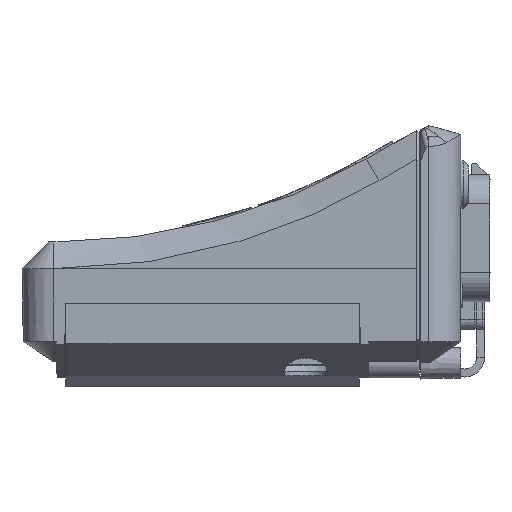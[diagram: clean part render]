
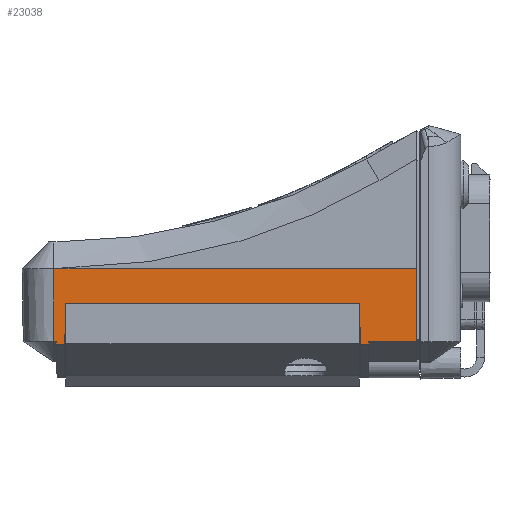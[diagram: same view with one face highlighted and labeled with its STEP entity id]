
A CAD part, left-side view. The second image highlights one B-rep face of the part: STEP entity #23038.
In plain terms, the highlighted planar face has unit normal (-1, 0, -0.018).
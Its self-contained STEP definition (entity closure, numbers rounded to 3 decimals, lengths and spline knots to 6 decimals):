
#3064=ORIENTED_EDGE('',*,*,#9696,.F.);
#3065=ORIENTED_EDGE('',*,*,#9727,.T.);
#3066=ORIENTED_EDGE('',*,*,#9726,.F.);
#3067=ORIENTED_EDGE('',*,*,#9728,.T.);
#3068=ORIENTED_EDGE('',*,*,#9729,.F.);
#3069=ORIENTED_EDGE('',*,*,#9730,.T.);
#3070=ORIENTED_EDGE('',*,*,#9731,.F.);
#3071=ORIENTED_EDGE('',*,*,#9710,.F.);
#3072=ORIENTED_EDGE('',*,*,#9234,.F.);
#3073=ORIENTED_EDGE('',*,*,#9732,.F.);
#3074=ORIENTED_EDGE('',*,*,#9261,.T.);
#3075=ORIENTED_EDGE('',*,*,#9733,.T.);
#9234=EDGE_CURVE('',#12638,#12639,#14888,.T.);
#9261=EDGE_CURVE('',#12665,#12664,#14909,.T.);
#9696=EDGE_CURVE('',#13035,#13036,#15087,.T.);
#9710=EDGE_CURVE('',#12639,#13041,#15101,.T.);
#9726=EDGE_CURVE('',#13050,#13049,#15113,.T.);
#9727=EDGE_CURVE('',#13035,#13049,#15114,.T.);
#9728=EDGE_CURVE('',#13050,#13051,#15115,.T.);
#9729=EDGE_CURVE('',#13052,#13051,#15116,.T.);
#9730=EDGE_CURVE('',#13052,#13053,#15117,.T.);
#9731=EDGE_CURVE('',#13041,#13053,#15118,.T.);
#9732=EDGE_CURVE('',#12665,#12638,#15119,.T.);
#9733=EDGE_CURVE('',#12664,#13036,#15120,.T.);
#12638=VERTEX_POINT('',#33279);
#12639=VERTEX_POINT('',#33281);
#12664=VERTEX_POINT('',#33334);
#12665=VERTEX_POINT('',#33336);
#13035=VERTEX_POINT('',#37460);
#13036=VERTEX_POINT('',#37462);
#13041=VERTEX_POINT('',#37486);
#13049=VERTEX_POINT('',#37514);
#13050=VERTEX_POINT('',#37516);
#13051=VERTEX_POINT('',#37521);
#13052=VERTEX_POINT('',#37523);
#13053=VERTEX_POINT('',#37525);
#14888=LINE('',#33280,#16962);
#14909=LINE('',#33335,#16983);
#15087=LINE('',#37461,#17161);
#15101=LINE('',#37488,#17175);
#15113=LINE('',#37517,#17187);
#15114=LINE('',#37519,#17188);
#15115=LINE('',#37520,#17189);
#15116=LINE('',#37522,#17190);
#15117=LINE('',#37524,#17191);
#15118=LINE('',#37526,#17192);
#15119=LINE('',#37527,#17193);
#15120=LINE('',#37528,#17194);
#16962=VECTOR('',#26637,1.);
#16983=VECTOR('',#26674,1.);
#17161=VECTOR('',#27046,1.);
#17175=VECTOR('',#27074,1.);
#17187=VECTOR('',#27102,1.);
#17188=VECTOR('',#27105,1.);
#17189=VECTOR('',#27106,1.);
#17190=VECTOR('',#27107,1.);
#17191=VECTOR('',#27108,1.);
#17192=VECTOR('',#27109,1.);
#17193=VECTOR('',#27110,1.);
#17194=VECTOR('',#27111,1.);
#19072=EDGE_LOOP('',(#3064,#3065,#3066,#3067,#3068,#3069,#3070,#3071,#3072,
#3073,#3074,#3075));
#20689=FACE_BOUND('',#19072,.T.);
#22170=PLANE('',#24501);
#23038=ADVANCED_FACE('',(#20689),#22170,.T.);
#24501=AXIS2_PLACEMENT_3D('',#37518,#27103,#27104);
#26637=DIRECTION('',(-0.017,0.017,1.));
#26674=DIRECTION('',(-0.017,-0.017,1.));
#27046=DIRECTION('',(0.017,0.,-1.));
#27074=DIRECTION('',(0.,1.,0.));
#27102=DIRECTION('',(-0.017,0.,1.));
#27103=DIRECTION('',(-1.,0.,-0.017));
#27104=DIRECTION('',(-0.017,0.,1.));
#27105=DIRECTION('',(0.,1.,0.));
#27106=DIRECTION('',(0.,-1.,0.));
#27107=DIRECTION('',(-0.017,0.017,1.));
#27108=DIRECTION('',(0.,-1.,0.));
#27109=DIRECTION('',(0.017,0.017,-1.));
#27110=DIRECTION('',(0.,1.,0.));
#27111=DIRECTION('',(0.,-1.,0.));
#33279=CARTESIAN_POINT('',(-0.065407,0.012532,-0.012978));
#33280=CARTESIAN_POINT('',(-0.065355,0.01248,-0.015945));
#33281=CARTESIAN_POINT('',(-0.065539,0.012664,-0.005419));
#33334=CARTESIAN_POINT('',(-0.065416,0.010959,-0.012472));
#33335=CARTESIAN_POINT('',(-0.065647,0.010728,0.000765));
#33336=CARTESIAN_POINT('',(-0.065407,0.010968,-0.012978));
#37460=CARTESIAN_POINT('',(-0.065654,0.002,0.001188));
#37461=CARTESIAN_POINT('',(-0.06611,0.002,0.027306));
#37462=CARTESIAN_POINT('',(-0.065416,0.002,-0.012472));
#37486=CARTESIAN_POINT('',(-0.065539,0.067836,-0.005419));
#37488=CARTESIAN_POINT('',(-0.065539,0.036,-0.005419));
#37514=CARTESIAN_POINT('',(-0.065654,0.07,0.001188));
#37516=CARTESIAN_POINT('',(-0.065416,0.07,-0.012472));
#37517=CARTESIAN_POINT('',(-0.065654,0.07,0.001188));
#37518=CARTESIAN_POINT('',(-0.065654,0.035,0.001188));
#37519=CARTESIAN_POINT('',(-0.065654,0.035,0.001188));
#37520=CARTESIAN_POINT('',(-0.065416,0.07,-0.012472));
#37521=CARTESIAN_POINT('',(-0.065416,0.069541,-0.012472));
#37522=CARTESIAN_POINT('',(-0.065355,0.06948,-0.015945));
#37523=CARTESIAN_POINT('',(-0.065407,0.069532,-0.012978));
#37524=CARTESIAN_POINT('',(-0.065407,0.035,-0.012978));
#37525=CARTESIAN_POINT('',(-0.065407,0.067968,-0.012978));
#37526=CARTESIAN_POINT('',(-0.065355,0.06802,-0.015945));
#37527=CARTESIAN_POINT('',(-0.065407,0.035,-0.012978));
#37528=CARTESIAN_POINT('',(-0.065416,0.07,-0.012472));
